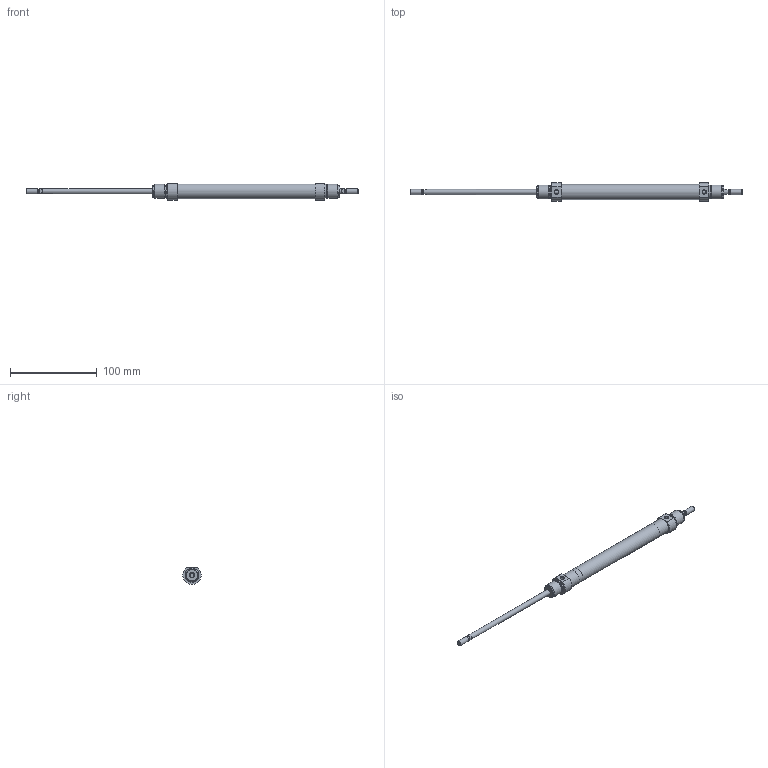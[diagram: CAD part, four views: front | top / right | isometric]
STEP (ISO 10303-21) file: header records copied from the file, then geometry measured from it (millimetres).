
FILE_DESCRIPTION( ( 'STEP AP203' ), '1' );
FILE_NAME( '//expscmdclustefs.cadenas.external/client_exchange/iodir/jobs/output/wkb68413233_no0/STEP/M101-016-0125-M__0__2_03.stp', ' ', ( ' ' ), ( ' ' ), 'PSStep 15.0.47', 'PARTsolutions', ' ' );
FILE_SCHEMA( ( 'CONFIG_CONTROL_DESIGN' ) );
Length unit declared in the file: millimetre
Products named in the file (3): M101-016-0125-M [0]; HI_M101-016-0125-M-[0]-z; HI_M101-016-0125-M-[0]-k
Assembly tree (2 placements, depth 2):
  M101-016-0125-M [0]
    HI_M101-016-0125-M-[0]-z
    HI_M101-016-0125-M-[0]-k
Bounding box: 382 x 20.94 x 19.09 mm (x, y, z)
Volume: 34074.1 mm3; surface area: 28985.6 mm2
Topology: 2 solids, 2 shells, 67 faces, 135 edges, 82 vertices
Faces by surface type: plane 28, cylinder 23, cone 14, torus 2
Full cylindrical faces by diameter (mm): 4.134 x2, 4.773 x2, 6 x6, 14.16 x4, 16 x6, 17.3 x1
Entity records: 1730 total; most frequent: CARTESIAN_POINT 334, DIRECTION 292, ORIENTED_EDGE 196, AXIS2_PLACEMENT_3D 132, EDGE_LOOP 116, EDGE_CURVE 98, FACE_OUTER_BOUND 90, VERTEX_POINT 78
